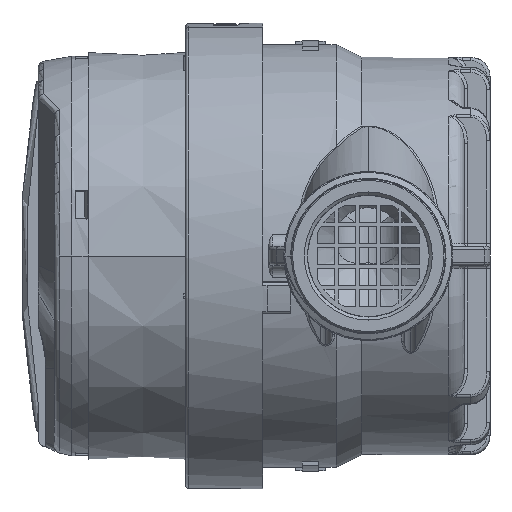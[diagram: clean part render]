
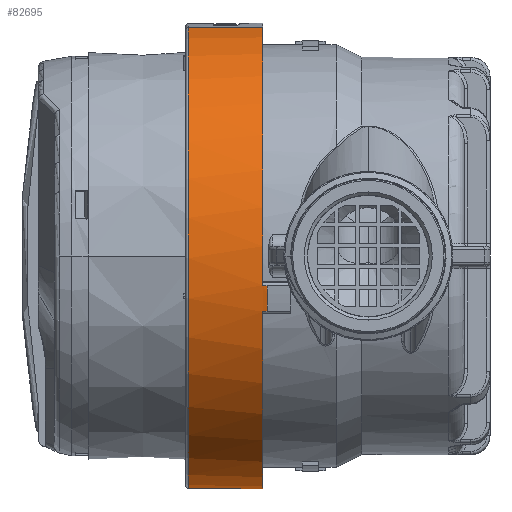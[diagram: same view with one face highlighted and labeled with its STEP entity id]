
A CAD part, left-side view. The second image highlights one B-rep face of the part: STEP entity #82695.
In plain terms, the highlighted conical face has half-angle 0.5 degrees and reference radius 36.25 mm.
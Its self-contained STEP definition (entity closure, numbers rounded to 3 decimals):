
#1554 = AXIS2_PLACEMENT_3D ( 'NONE', #50128, #30079, #71103 ) ;
#3590 = CARTESIAN_POINT ( 'NONE',  ( 0., 35.5, 0. ) ) ;
#4536 = DIRECTION ( 'NONE',  ( 0., -1., 0. ) ) ;
#4646 = B_SPLINE_CURVE_WITH_KNOTS ( 'NONE', 3,
 ( #71455, #37097, #64338, #30426, #50920, #78150, #17074, #44252, #59432, #5052, #32188, #26412, #45584, #32650, #66582, #72800 ),
 .UNSPECIFIED., .F., .F.,
 ( 4, 2, 2, 2, 2, 2, 2, 4 ),
 ( 0., 0., 0., 0., 0., 0., 0., 0.001 ),
 .UNSPECIFIED. ) ;
#5052 = CARTESIAN_POINT ( 'NONE',  ( -35.312, 34.911, -8.667 ) ) ;
#5124 = AXIS2_PLACEMENT_3D ( 'NONE', #37938, #4536, #66070 ) ;
#6628 = ORIENTED_EDGE ( 'NONE', *, *, #72768, .F. ) ;
#7606 = CARTESIAN_POINT ( 'NONE',  ( 0., 47.5, 0. ) ) ;
#7892 = CARTESIAN_POINT ( 'NONE',  ( -36.066, 35.5, -4.571 ) ) ;
#8401 = ORIENTED_EDGE ( 'NONE', *, *, #23365, .F. ) ;
#9181 = CARTESIAN_POINT ( 'NONE',  ( -36.064, 34.824, -4.635 ) ) ;
#9683 = VERTEX_POINT ( 'NONE', #50627 ) ;
#11458 = VERTEX_POINT ( 'NONE', #26374 ) ;
#11725 = DIRECTION ( 'NONE',  ( -0.183, 0., 0.983 ) ) ;
#13575 = EDGE_CURVE ( 'NONE', #55044, #56183, #56323, .T. ) ;
#14130 = CONICAL_SURFACE ( 'NONE', #25497, 36.25, 0.009 ) ;
#15022 = CARTESIAN_POINT ( 'NONE',  ( -36.065, 34.868, -4.625 ) ) ;
#15877 = CARTESIAN_POINT ( 'NONE',  ( -36.063, 34.8, -4.646 ) ) ;
#17074 = CARTESIAN_POINT ( 'NONE',  ( -35.316, 34.832, -8.653 ) ) ;
#18165 = DIRECTION ( 'NONE',  ( -0.002, -1., 0.009 ) ) ;
#18174 = ORIENTED_EDGE ( 'NONE', *, *, #39938, .F. ) ;
#20527 = DIRECTION ( 'NONE',  ( -0.183, 0., 0.983 ) ) ;
#21417 = VERTEX_POINT ( 'NONE', #76284 ) ;
#21507 = ORIENTED_EDGE ( 'NONE', *, *, #71248, .T. ) ;
#22297 = EDGE_CURVE ( 'NONE', #9683, #76800, #39946, .T. ) ;
#23365 = EDGE_CURVE ( 'NONE', #56183, #87569, #4646, .T. ) ;
#24460 = DIRECTION ( 'NONE',  ( 0.002, -1., -0.009 ) ) ;
#24904 = EDGE_CURVE ( 'NONE', #9683, #56693, #30600, .T. ) ;
#25497 = AXIS2_PLACEMENT_3D ( 'NONE', #7606, #41005, #20527 ) ;
#26374 = CARTESIAN_POINT ( 'NONE',  ( 6.652, 35.5, -35.741 ) ) ;
#26412 = CARTESIAN_POINT ( 'NONE',  ( -35.307, 35.029, -8.68 ) ) ;
#26727 = CARTESIAN_POINT ( 'NONE',  ( -35.32, 34.8, -8.637 ) ) ;
#28369 = CARTESIAN_POINT ( 'NONE',  ( -36.063, 34.81, -4.64 ) ) ;
#28787 = CARTESIAN_POINT ( 'NONE',  ( -36.063, 34.804, -4.643 ) ) ;
#30079 = DIRECTION ( 'NONE',  ( 0., -1., 0. ) ) ;
#30426 = CARTESIAN_POINT ( 'NONE',  ( -35.318, 34.81, -8.646 ) ) ;
#30518 = VECTOR ( 'NONE', #18165, 1000. ) ;
#30600 = LINE ( 'NONE', #86295, #30518 ) ;
#32188 = CARTESIAN_POINT ( 'NONE',  ( -35.311, 34.941, -8.671 ) ) ;
#32650 = CARTESIAN_POINT ( 'NONE',  ( -35.301, 35.264, -8.699 ) ) ;
#32682 = CARTESIAN_POINT ( 'NONE',  ( 6.634, 47.103, -35.641 ) ) ;
#36067 = CARTESIAN_POINT ( 'NONE',  ( -36.062, 34.8, -4.65 ) ) ;
#37097 = CARTESIAN_POINT ( 'NONE',  ( -35.319, 34.8, -8.64 ) ) ;
#37938 = CARTESIAN_POINT ( 'NONE',  ( 0., 34.8, 0. ) ) ;
#38300 = DIRECTION ( 'NONE',  ( 0., -1., 0. ) ) ;
#38992 = VECTOR ( 'NONE', #24460, 1000. ) ;
#39938 = EDGE_CURVE ( 'NONE', #56693, #21417, #69764, .T. ) ;
#39946 = CIRCLE ( 'NONE', #1554, 36.253 ) ;
#40576 = ORIENTED_EDGE ( 'NONE', *, *, #73175, .T. ) ;
#41005 = DIRECTION ( 'NONE',  ( 0., -1., 0. ) ) ;
#44252 = CARTESIAN_POINT ( 'NONE',  ( -35.315, 34.853, -8.658 ) ) ;
#45561 = DIRECTION ( 'NONE',  ( 0., -1., 0. ) ) ;
#45584 = CARTESIAN_POINT ( 'NONE',  ( -35.306, 35.087, -8.685 ) ) ;
#47280 = FACE_OUTER_BOUND ( 'NONE', #66404, .T. ) ;
#49278 = CARTESIAN_POINT ( 'NONE',  ( -36.066, 35.087, -4.599 ) ) ;
#49640 = B_SPLINE_CURVE_WITH_KNOTS ( 'NONE', 3,
 ( #70244, #15877, #28787, #28369, #75643, #9181, #56433, #76073, #15022, #83530, #76517, #82263, #49278, #68962, #68535, #7892 ),
 .UNSPECIFIED., .F., .F.,
 ( 4, 2, 2, 2, 2, 2, 2, 4 ),
 ( 0., 0., 0., 0., 0., 0., 0., 0.001 ),
 .UNSPECIFIED. ) ;
#50128 = CARTESIAN_POINT ( 'NONE',  ( 0., 47.103, 0. ) ) ;
#50627 = CARTESIAN_POINT ( 'NONE',  ( -6.634, 47.103, 35.641 ) ) ;
#50920 = CARTESIAN_POINT ( 'NONE',  ( -35.317, 34.814, -8.648 ) ) ;
#52069 = CARTESIAN_POINT ( 'NONE',  ( 6.633, 47.5, -35.638 ) ) ;
#52666 = CARTESIAN_POINT ( 'NONE',  ( -6.652, 35.5, 35.741 ) ) ;
#55044 = VERTEX_POINT ( 'NONE', #36067 ) ;
#56183 = VERTEX_POINT ( 'NONE', #26727 ) ;
#56323 = CIRCLE ( 'NONE', #5124, 36.361 ) ;
#56356 = AXIS2_PLACEMENT_3D ( 'NONE', #3590, #38300, #85498 ) ;
#56433 = CARTESIAN_POINT ( 'NONE',  ( -36.064, 34.832, -4.633 ) ) ;
#56693 = VERTEX_POINT ( 'NONE', #52666 ) ;
#59432 = CARTESIAN_POINT ( 'NONE',  ( -35.314, 34.868, -8.661 ) ) ;
#64160 = LINE ( 'NONE', #52069, #38992 ) ;
#64338 = CARTESIAN_POINT ( 'NONE',  ( -35.319, 34.804, -8.643 ) ) ;
#66070 = DIRECTION ( 'NONE',  ( -0.183, 0., 0.983 ) ) ;
#66404 = EDGE_LOOP ( 'NONE', ( #79459, #21507, #6628, #8401, #85779, #40576, #18174, #80085 ) ) ;
#66582 = CARTESIAN_POINT ( 'NONE',  ( -35.298, 35.382, -8.705 ) ) ;
#68535 = CARTESIAN_POINT ( 'NONE',  ( -36.066, 35.382, -4.578 ) ) ;
#68962 = CARTESIAN_POINT ( 'NONE',  ( -36.067, 35.264, -4.585 ) ) ;
#69764 = CIRCLE ( 'NONE', #86778, 36.355 ) ;
#70244 = CARTESIAN_POINT ( 'NONE',  ( -36.062, 34.8, -4.65 ) ) ;
#71103 = DIRECTION ( 'NONE',  ( 0.183, 0., -0.983 ) ) ;
#71248 = EDGE_CURVE ( 'NONE', #76800, #11458, #64160, .T. ) ;
#71455 = CARTESIAN_POINT ( 'NONE',  ( -35.32, 34.8, -8.637 ) ) ;
#71903 = CARTESIAN_POINT ( 'NONE',  ( 0., 35.5, 0. ) ) ;
#72213 = CIRCLE ( 'NONE', #56356, 36.355 ) ;
#72768 = EDGE_CURVE ( 'NONE', #87569, #11458, #72213, .T. ) ;
#72800 = CARTESIAN_POINT ( 'NONE',  ( -35.296, 35.5, -8.712 ) ) ;
#73175 = EDGE_CURVE ( 'NONE', #55044, #21417, #49640, .T. ) ;
#75643 = CARTESIAN_POINT ( 'NONE',  ( -36.064, 34.814, -4.638 ) ) ;
#76073 = CARTESIAN_POINT ( 'NONE',  ( -36.065, 34.853, -4.628 ) ) ;
#76284 = CARTESIAN_POINT ( 'NONE',  ( -36.066, 35.5, -4.571 ) ) ;
#76517 = CARTESIAN_POINT ( 'NONE',  ( -36.066, 34.941, -4.614 ) ) ;
#76800 = VERTEX_POINT ( 'NONE', #32682 ) ;
#77869 = CARTESIAN_POINT ( 'NONE',  ( -35.296, 35.5, -8.712 ) ) ;
#78150 = CARTESIAN_POINT ( 'NONE',  ( -35.316, 34.824, -8.651 ) ) ;
#79459 = ORIENTED_EDGE ( 'NONE', *, *, #22297, .T. ) ;
#80085 = ORIENTED_EDGE ( 'NONE', *, *, #24904, .F. ) ;
#82263 = CARTESIAN_POINT ( 'NONE',  ( -36.066, 35.029, -4.604 ) ) ;
#82695 = ADVANCED_FACE ( 'NONE', ( #47280 ), #14130, .T. ) ;
#83530 = CARTESIAN_POINT ( 'NONE',  ( -36.065, 34.911, -4.618 ) ) ;
#85498 = DIRECTION ( 'NONE',  ( -0.183, 0., 0.983 ) ) ;
#85779 = ORIENTED_EDGE ( 'NONE', *, *, #13575, .F. ) ;
#86295 = CARTESIAN_POINT ( 'NONE',  ( -6.633, 47.5, 35.638 ) ) ;
#86778 = AXIS2_PLACEMENT_3D ( 'NONE', #71903, #45561, #11725 ) ;
#87569 = VERTEX_POINT ( 'NONE', #77869 ) ;
